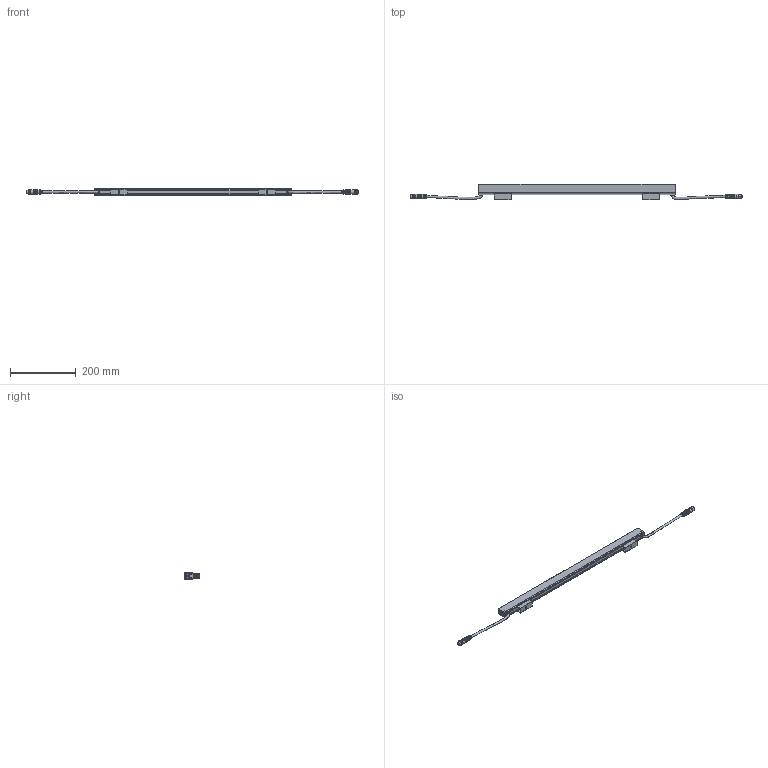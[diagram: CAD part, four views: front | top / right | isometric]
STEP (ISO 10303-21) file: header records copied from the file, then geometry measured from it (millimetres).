
FILE_DESCRIPTION (( 'STEP AP214' ), '1' );
FILE_NAME ('DiGi Linear V-Series L600 Flat.STEP', '2025-07-22T11:40:33', ( '' ), ( '' ), 'SwSTEP 2.0', 'SolidWorks 2025', '' );
FILE_SCHEMA (( 'AUTOMOTIVE_DESIGN' ));
Length unit declared in the file: millimetre
Products named in the file (7): DiGi Linear V-serie - Clip; DiGi Linear V-Series L600 Flat; DiGi Linear V-serie - Cabling_L600; DiGi Linear V-serie - Body_L600 Flat; M12 3p Male; M12 3p Female; Counter sunk screw torx_M2x6
Assembly tree (10 placements, depth 2):
  DiGi Linear V-Series L600 Flat
    DiGi Linear V-serie - Body_L600 Flat
    DiGi Linear V-serie - Clip  x2
    M12 3p Male
    M12 3p Female
    DiGi Linear V-serie - Cabling_L600
    Counter sunk screw torx_M2x6  x4
Bounding box: 1007.4 x 46 x 18.3 mm (x, y, z)
Volume: 337499.3 mm3; surface area: 93532.7 mm2
Topology: 13 solids, 13 shells, 1281 faces, 3215 edges, 2004 vertices
Faces by surface type: plane 490, cylinder 354, bspline 184, torus 161, cone 80, sphere 12
Full cylindrical faces by diameter (mm): 2 x4, 2.4 x4, 3 x4, 6.5 x6, 9.7 x1, 10 x2, 10.8 x1, 12.3 x1, 14.3 x2
Entity records: 53818 total; most frequent: CARTESIAN_POINT 17185, ORIENTED_EDGE 5798, DIRECTION 4799, EDGE_CURVE 2899, VERTEX_POINT 1820, AXIS2_PLACEMENT_3D 1808, EDGE_LOOP 1277, FACE_OUTER_BOUND 1205
